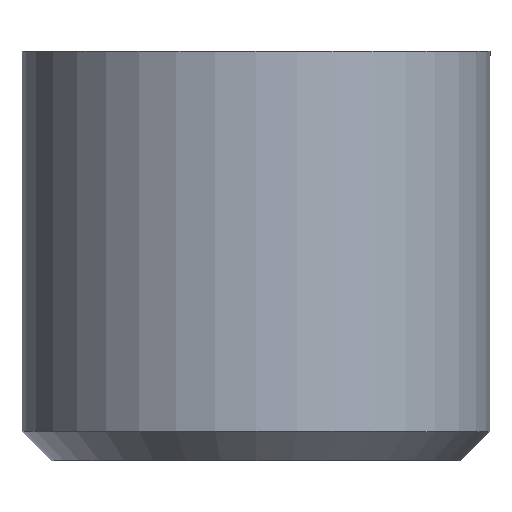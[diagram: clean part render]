
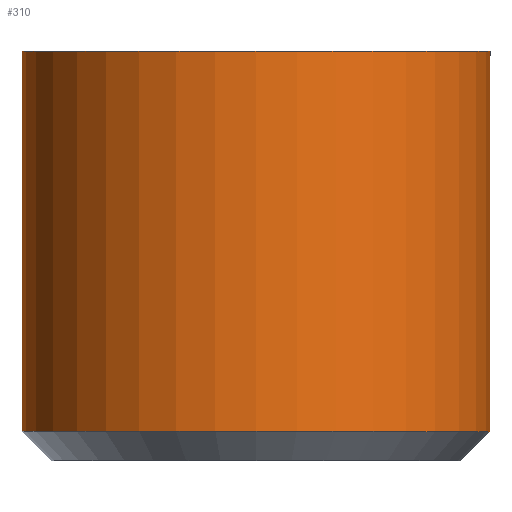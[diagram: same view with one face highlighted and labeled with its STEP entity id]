
A CAD part, front view. The second image highlights one B-rep face of the part: STEP entity #310.
In plain terms, the highlighted cylindrical face has radius 8 mm (diameter 16 mm), a partial arc.
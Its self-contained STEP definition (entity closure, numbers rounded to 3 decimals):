
#7 = CARTESIAN_POINT ( 'NONE',  ( -8., 0., -8. ) ) ;
#8 = ORIENTED_EDGE ( 'NONE', *, *, #151, .F. ) ;
#12 = CARTESIAN_POINT ( 'NONE',  ( 0., 0., -1. ) ) ;
#24 = CARTESIAN_POINT ( 'NONE',  ( 0., 0., -8. ) ) ;
#39 = LINE ( 'NONE', #7, #298 ) ;
#44 = VERTEX_POINT ( 'NONE', #447 ) ;
#45 = EDGE_CURVE ( 'NONE', #44, #445, #182, .T. ) ;
#48 = CARTESIAN_POINT ( 'NONE',  ( -8., 0., -14. ) ) ;
#50 = CIRCLE ( 'NONE', #76, 8. ) ;
#53 = AXIS2_PLACEMENT_3D ( 'NONE', #12, #138, #255 ) ;
#76 = AXIS2_PLACEMENT_3D ( 'NONE', #157, #463, #461 ) ;
#81 = DIRECTION ( 'NONE',  ( 0., 0., -1. ) ) ;
#110 = VERTEX_POINT ( 'NONE', #48 ) ;
#111 = CARTESIAN_POINT ( 'NONE',  ( -8., 0., -1. ) ) ;
#112 = CYLINDRICAL_SURFACE ( 'NONE', #168, 8. ) ;
#118 = ORIENTED_EDGE ( 'NONE', *, *, #226, .F. ) ;
#131 = ORIENTED_EDGE ( 'NONE', *, *, #220, .T. ) ;
#138 = DIRECTION ( 'NONE',  ( 0., 0., 1. ) ) ;
#151 = EDGE_CURVE ( 'NONE', #196, #44, #283, .T. ) ;
#152 = DIRECTION ( 'NONE',  ( 0., 0., -1. ) ) ;
#157 = CARTESIAN_POINT ( 'NONE',  ( 0., 0., -14. ) ) ;
#168 = AXIS2_PLACEMENT_3D ( 'NONE', #24, #152, #384 ) ;
#182 = LINE ( 'NONE', #436, #450 ) ;
#196 = VERTEX_POINT ( 'NONE', #111 ) ;
#210 = DIRECTION ( 'NONE',  ( 0., 0., -1. ) ) ;
#220 = EDGE_CURVE ( 'NONE', #196, #110, #39, .T. ) ;
#226 = EDGE_CURVE ( 'NONE', #445, #110, #50, .T. ) ;
#255 = DIRECTION ( 'NONE',  ( -1., 0., 0. ) ) ;
#258 = ORIENTED_EDGE ( 'NONE', *, *, #45, .F. ) ;
#283 = CIRCLE ( 'NONE', #53, 8. ) ;
#298 = VECTOR ( 'NONE', #81, 1000. ) ;
#310 = ADVANCED_FACE ( 'NONE', ( #449 ), #112, .T. ) ;
#350 = EDGE_LOOP ( 'NONE', ( #258, #8, #131, #118 ) ) ;
#363 = CARTESIAN_POINT ( 'NONE',  ( 8., 0., -14. ) ) ;
#384 = DIRECTION ( 'NONE',  ( -1., 0., 0. ) ) ;
#436 = CARTESIAN_POINT ( 'NONE',  ( 8., 0., -8. ) ) ;
#445 = VERTEX_POINT ( 'NONE', #363 ) ;
#447 = CARTESIAN_POINT ( 'NONE',  ( 8., 0., -1. ) ) ;
#449 = FACE_OUTER_BOUND ( 'NONE', #350, .T. ) ;
#450 = VECTOR ( 'NONE', #210, 1000. ) ;
#461 = DIRECTION ( 'NONE',  ( -1., 0., 0. ) ) ;
#463 = DIRECTION ( 'NONE',  ( 0., 0., -1. ) ) ;
